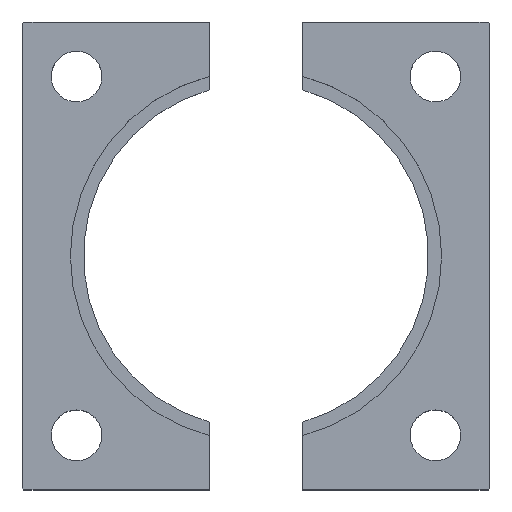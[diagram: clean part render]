
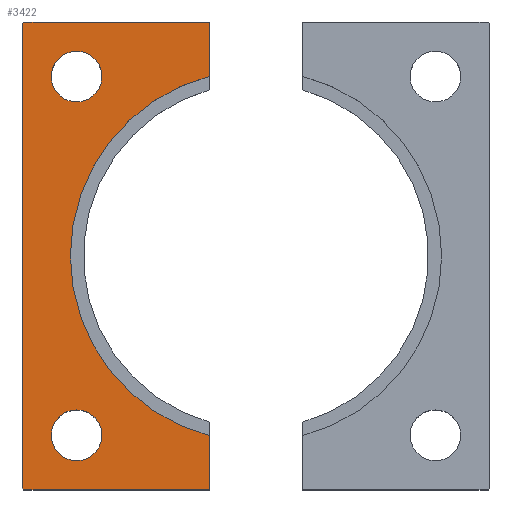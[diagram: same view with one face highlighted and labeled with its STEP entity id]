
A CAD part, top view. The second image highlights one B-rep face of the part: STEP entity #3422.
In plain terms, the highlighted planar face has unit normal (0, 0, 1).
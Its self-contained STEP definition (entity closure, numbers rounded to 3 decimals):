
#293=FACE_BOUND('',#607,.T.);
#294=FACE_BOUND('',#608,.T.);
#317=PLANE('',#3640);
#412=FACE_OUTER_BOUND('',#606,.T.);
#606=EDGE_LOOP('',(#2370,#2371,#2372,#2373,#2374,#2375,#2376,#2377));
#607=EDGE_LOOP('',(#2378));
#608=EDGE_LOOP('',(#2379));
#822=CIRCLE('',#3637,47.6);
#824=CIRCLE('',#3641,6.5);
#825=CIRCLE('',#3642,6.5);
#841=LINE('',#4334,#1166);
#842=LINE('',#4336,#1167);
#843=LINE('',#4338,#1168);
#844=LINE('',#4340,#1169);
#845=LINE('',#4342,#1170);
#846=LINE('',#4344,#1171);
#847=LINE('',#4345,#1172);
#1166=VECTOR('',#3771,10.);
#1167=VECTOR('',#3772,10.);
#1168=VECTOR('',#3773,10.);
#1169=VECTOR('',#3774,10.);
#1170=VECTOR('',#3775,10.);
#1171=VECTOR('',#3776,10.);
#1172=VECTOR('',#3777,10.);
#1488=VERTEX_POINT('',#4319);
#1490=VERTEX_POINT('',#4323);
#1493=VERTEX_POINT('',#4333);
#1494=VERTEX_POINT('',#4335);
#1495=VERTEX_POINT('',#4337);
#1496=VERTEX_POINT('',#4339);
#1497=VERTEX_POINT('',#4341);
#1498=VERTEX_POINT('',#4343);
#1499=VERTEX_POINT('',#4346);
#1500=VERTEX_POINT('',#4348);
#1840=EDGE_CURVE('',#1488,#1490,#822,.T.);
#1844=EDGE_CURVE('',#1493,#1490,#841,.T.);
#1845=EDGE_CURVE('',#1494,#1493,#842,.T.);
#1846=EDGE_CURVE('',#1495,#1494,#843,.T.);
#1847=EDGE_CURVE('',#1496,#1495,#844,.T.);
#1848=EDGE_CURVE('',#1497,#1496,#845,.T.);
#1849=EDGE_CURVE('',#1498,#1497,#846,.T.);
#1850=EDGE_CURVE('',#1488,#1498,#847,.T.);
#1851=EDGE_CURVE('',#1499,#1499,#824,.T.);
#1852=EDGE_CURVE('',#1500,#1500,#825,.T.);
#2370=ORIENTED_EDGE('',*,*,#1840,.T.);
#2371=ORIENTED_EDGE('',*,*,#1844,.F.);
#2372=ORIENTED_EDGE('',*,*,#1845,.F.);
#2373=ORIENTED_EDGE('',*,*,#1846,.F.);
#2374=ORIENTED_EDGE('',*,*,#1847,.F.);
#2375=ORIENTED_EDGE('',*,*,#1848,.F.);
#2376=ORIENTED_EDGE('',*,*,#1849,.F.);
#2377=ORIENTED_EDGE('',*,*,#1850,.F.);
#2378=ORIENTED_EDGE('',*,*,#1851,.T.);
#2379=ORIENTED_EDGE('',*,*,#1852,.T.);
#3422=ADVANCED_FACE('',(#412,#293,#294),#317,.T.);
#3637=AXIS2_PLACEMENT_3D('',#4325,#3761,#3762);
#3640=AXIS2_PLACEMENT_3D('',#4332,#3769,#3770);
#3641=AXIS2_PLACEMENT_3D('',#4347,#3778,#3779);
#3642=AXIS2_PLACEMENT_3D('',#4349,#3780,#3781);
#3761=DIRECTION('center_axis',(0.,0.,-1.));
#3762=DIRECTION('ref_axis',(-1.,0.,0.));
#3769=DIRECTION('center_axis',(0.,0.,1.));
#3770=DIRECTION('ref_axis',(1.,0.,0.));
#3771=DIRECTION('',(0.,-1.,0.));
#3772=DIRECTION('',(1.,0.,0.));
#3773=DIRECTION('',(0.707,0.707,0.));
#3774=DIRECTION('',(0.,1.,0.));
#3775=DIRECTION('',(-0.707,0.707,0.));
#3776=DIRECTION('',(-1.,0.,0.));
#3777=DIRECTION('',(0.,-1.,0.));
#3778=DIRECTION('center_axis',(0.,0.,-1.));
#3779=DIRECTION('ref_axis',(-1.,0.,0.));
#3780=DIRECTION('center_axis',(0.,0.,-1.));
#3781=DIRECTION('ref_axis',(-1.,0.,0.));
#4319=CARTESIAN_POINT('',(-12.,-46.063,12.));
#4323=CARTESIAN_POINT('',(-12.,46.063,12.));
#4325=CARTESIAN_POINT('Origin',(0.,0.,12.));
#4332=CARTESIAN_POINT('Origin',(-35.958,0.,
12.));
#4333=CARTESIAN_POINT('',(-12.,60.,12.));
#4334=CARTESIAN_POINT('',(-12.,-60.,12.));
#4335=CARTESIAN_POINT('',(-59.5,60.,12.));
#4336=CARTESIAN_POINT('',(-12.,60.,12.));
#4337=CARTESIAN_POINT('',(-60.,59.5,12.));
#4338=CARTESIAN_POINT('',(-59.5,60.,12.));
#4339=CARTESIAN_POINT('',(-60.,-59.5,12.));
#4340=CARTESIAN_POINT('',(-60.,59.5,12.));
#4341=CARTESIAN_POINT('',(-59.5,-60.,12.));
#4342=CARTESIAN_POINT('',(-60.,-59.5,12.));
#4343=CARTESIAN_POINT('',(-12.,-60.,12.));
#4344=CARTESIAN_POINT('',(-59.5,-60.,12.));
#4345=CARTESIAN_POINT('',(-12.,-60.,12.));
#4346=CARTESIAN_POINT('',(-39.5,-46.,12.));
#4347=CARTESIAN_POINT('Origin',(-46.,-46.,12.));
#4348=CARTESIAN_POINT('',(-39.5,46.,12.));
#4349=CARTESIAN_POINT('Origin',(-46.,46.,12.));
